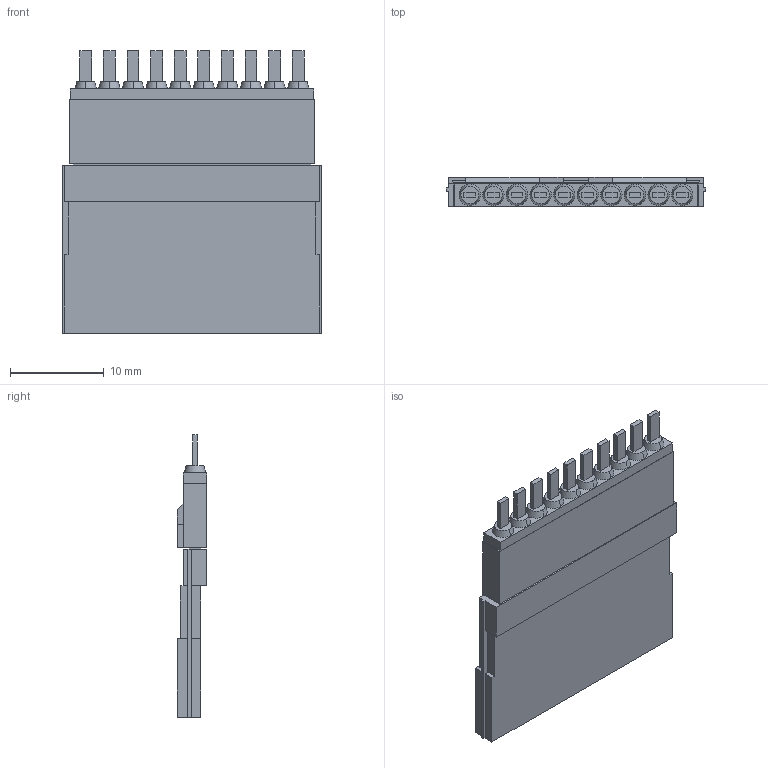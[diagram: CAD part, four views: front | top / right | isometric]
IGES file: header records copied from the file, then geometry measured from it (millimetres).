
Start section:  PTC IGES file: c-750359-000-f-3d.igs
Global section: file name: c-750359-000-f-3d.igs; native system: Pro/ENGINEER by Parametric Technology Corporation; preprocessor: 2010430; author: workeradm; organization: Unknown; units: millimetre
Bounding box: 27.69 x 3.17 x 30.1 mm (x, y, z)
Surface area: 2033.9 mm2 (no closed solid volume)
Topology: 0 solids, 0 shells, 229 faces, 1170 edges, 1170 vertices
Faces by surface type: bspline 209, revolution 20
